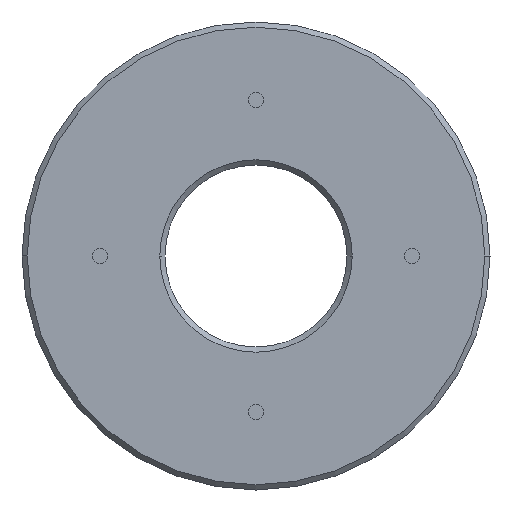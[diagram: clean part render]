
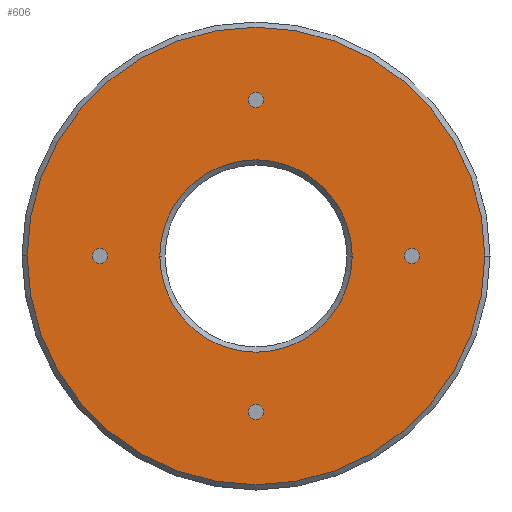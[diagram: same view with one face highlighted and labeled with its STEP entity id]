
A CAD part, front view. The second image highlights one B-rep face of the part: STEP entity #606.
In plain terms, the highlighted planar face has unit normal (0, -1, 0).
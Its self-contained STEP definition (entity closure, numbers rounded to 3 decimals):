
#6=CARTESIAN_POINT('',(30.,-12.5,0.));
#7=DIRECTION('',(0.,-1.,0.));
#8=DIRECTION('',(0.,0.,-1.));
#9=AXIS2_PLACEMENT_3D('',#6,#7,#8);
#11=CARTESIAN_POINT('',(30.,-12.5,0.));
#12=DIRECTION('',(0.,-1.,0.));
#13=DIRECTION('',(0.,0.,1.));
#14=AXIS2_PLACEMENT_3D('',#11,#12,#13);
#16=CARTESIAN_POINT('',(0.,-12.5,-30.));
#17=DIRECTION('',(0.,-1.,0.));
#18=DIRECTION('',(0.,0.,-1.));
#19=AXIS2_PLACEMENT_3D('',#16,#17,#18);
#21=CARTESIAN_POINT('',(0.,-12.5,-30.));
#22=DIRECTION('',(0.,-1.,0.));
#23=DIRECTION('',(0.,0.,1.));
#24=AXIS2_PLACEMENT_3D('',#21,#22,#23);
#26=CARTESIAN_POINT('',(-30.,-12.5,0.));
#27=DIRECTION('',(0.,-1.,0.));
#28=DIRECTION('',(0.,0.,-1.));
#29=AXIS2_PLACEMENT_3D('',#26,#27,#28);
#31=CARTESIAN_POINT('',(-30.,-12.5,0.));
#32=DIRECTION('',(0.,-1.,0.));
#33=DIRECTION('',(0.,0.,1.));
#34=AXIS2_PLACEMENT_3D('',#31,#32,#33);
#36=CARTESIAN_POINT('',(0.,-12.5,30.));
#37=DIRECTION('',(0.,-1.,0.));
#38=DIRECTION('',(0.,0.,-1.));
#39=AXIS2_PLACEMENT_3D('',#36,#37,#38);
#41=CARTESIAN_POINT('',(0.,-12.5,30.));
#42=DIRECTION('',(0.,-1.,0.));
#43=DIRECTION('',(0.,0.,1.));
#44=AXIS2_PLACEMENT_3D('',#41,#42,#43);
#46=CARTESIAN_POINT('',(0.,-12.5,0.));
#47=DIRECTION('',(0.,1.,0.));
#48=DIRECTION('',(-1.,0.,0.));
#49=AXIS2_PLACEMENT_3D('',#46,#47,#48);
#51=CARTESIAN_POINT('',(0.,-12.5,
0.));
#52=DIRECTION('',(0.,1.,0.));
#53=DIRECTION('',(1.,0.,0.));
#54=AXIS2_PLACEMENT_3D('',#51,#52,#53);
#56=CARTESIAN_POINT('',(0.,-12.5,
0.));
#57=DIRECTION('',(0.,1.,0.));
#58=DIRECTION('',(-1.,0.,0.));
#59=AXIS2_PLACEMENT_3D('',#56,#57,#58);
#61=CARTESIAN_POINT('',(0.,-12.5,
0.));
#62=DIRECTION('',(0.,1.,0.));
#63=DIRECTION('',(1.,0.,0.));
#64=AXIS2_PLACEMENT_3D('',#61,#62,#63);
#466=CARTESIAN_POINT('',(30.,-12.5,-1.5));
#467=CARTESIAN_POINT('',(30.,-12.5,1.5));
#468=VERTEX_POINT('',#466);
#469=VERTEX_POINT('',#467);
#470=CARTESIAN_POINT('',(0.,-12.5,-31.5));
#471=CARTESIAN_POINT('',(0.,-12.5,-28.5));
#472=VERTEX_POINT('',#470);
#473=VERTEX_POINT('',#471);
#474=CARTESIAN_POINT('',(-30.,-12.5,-1.5));
#475=CARTESIAN_POINT('',(-30.,-12.5,1.5));
#476=VERTEX_POINT('',#474);
#477=VERTEX_POINT('',#475);
#478=CARTESIAN_POINT('',(0.,-12.5,28.5));
#479=CARTESIAN_POINT('',(0.,-12.5,31.5));
#480=VERTEX_POINT('',#478);
#481=VERTEX_POINT('',#479);
#534=CARTESIAN_POINT('',(-18.5,-12.5,
0.));
#535=CARTESIAN_POINT('',(18.5,-12.5,0.));
#536=VERTEX_POINT('',#534);
#537=VERTEX_POINT('',#535);
#542=CARTESIAN_POINT('',(-44.,-12.5,
0.));
#543=CARTESIAN_POINT('',(44.,-12.5,0.));
#544=VERTEX_POINT('',#542);
#545=VERTEX_POINT('',#543);
#566=CARTESIAN_POINT('',(0.,-12.5,0.));
#567=DIRECTION('',(0.,-1.,0.));
#568=DIRECTION('',(-1.,0.,0.));
#569=AXIS2_PLACEMENT_3D('',#566,#567,#568);
#570=PLANE('',#569);
#572=ORIENTED_EDGE('',*,*,#571,.T.);
#574=ORIENTED_EDGE('',*,*,#573,.T.);
#575=EDGE_LOOP('',(#572,#574));
#576=FACE_OUTER_BOUND('',#575,.F.);
#577=ORIENTED_EDGE('',*,*,#555,.T.);
#579=ORIENTED_EDGE('',*,*,#578,.T.);
#580=EDGE_LOOP('',(#577,#579));
#581=FACE_BOUND('',#580,.F.);
#583=ORIENTED_EDGE('',*,*,#582,.T.);
#585=ORIENTED_EDGE('',*,*,#584,.T.);
#586=EDGE_LOOP('',(#583,#585));
#587=FACE_BOUND('',#586,.F.);
#589=ORIENTED_EDGE('',*,*,#588,.T.);
#591=ORIENTED_EDGE('',*,*,#590,.T.);
#592=EDGE_LOOP('',(#589,#591));
#593=FACE_BOUND('',#592,.F.);
#595=ORIENTED_EDGE('',*,*,#594,.T.);
#597=ORIENTED_EDGE('',*,*,#596,.T.);
#598=EDGE_LOOP('',(#595,#597));
#599=FACE_BOUND('',#598,.F.);
#601=ORIENTED_EDGE('',*,*,#600,.F.);
#603=ORIENTED_EDGE('',*,*,#602,.F.);
#604=EDGE_LOOP('',(#601,#603));
#605=FACE_BOUND('',#604,.F.);
#10=CIRCLE('',#9,1.5);
#15=CIRCLE('',#14,1.5);
#20=CIRCLE('',#19,1.5);
#25=CIRCLE('',#24,1.5);
#30=CIRCLE('',#29,1.5);
#35=CIRCLE('',#34,1.5);
#40=CIRCLE('',#39,1.5);
#45=CIRCLE('',#44,1.5);
#50=CIRCLE('',#49,18.5);
#55=CIRCLE('',#54,18.5);
#60=CIRCLE('',#59,44.);
#65=CIRCLE('',#64,44.);
#555=EDGE_CURVE('',#468,#469,#10,.T.);
#571=EDGE_CURVE('',#544,#545,#60,.T.);
#573=EDGE_CURVE('',#545,#544,#65,.T.);
#578=EDGE_CURVE('',#469,#468,#15,.T.);
#582=EDGE_CURVE('',#472,#473,#20,.T.);
#584=EDGE_CURVE('',#473,#472,#25,.T.);
#588=EDGE_CURVE('',#476,#477,#30,.T.);
#590=EDGE_CURVE('',#477,#476,#35,.T.);
#594=EDGE_CURVE('',#480,#481,#40,.T.);
#596=EDGE_CURVE('',#481,#480,#45,.T.);
#600=EDGE_CURVE('',#536,#537,#50,.T.);
#602=EDGE_CURVE('',#537,#536,#55,.T.);
#606=ADVANCED_FACE('',(#576,#581,#587,#593,#599,#605),#570,.T.);
